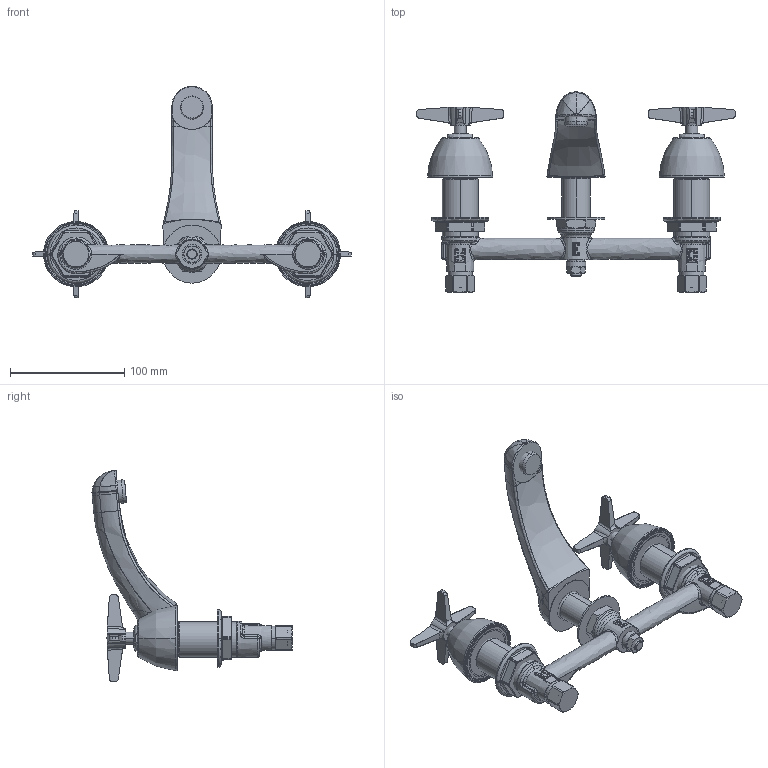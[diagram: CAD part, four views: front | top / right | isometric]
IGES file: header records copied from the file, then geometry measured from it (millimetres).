
Start section:  PTC IGES file: 404-633CP_REV053111.igs
Global section: file name: 404-633CP_REV053111.igs; native system: Pro/ENGINEER by Parametric Technology Corporation; preprocessor: 2010230; author: sdmitruk; organization: Unknown; date: 20110531.105205; units: inch
Bounding box: 279.39 x 175.42 x 185.18 mm (x, y, z)
Surface area: 118657.2 mm2 (no closed solid volume)
Topology: 0 solids, 0 shells, 841 faces, 5919 edges, 7912 vertices
Faces by surface type: revolution 421, bspline 420
